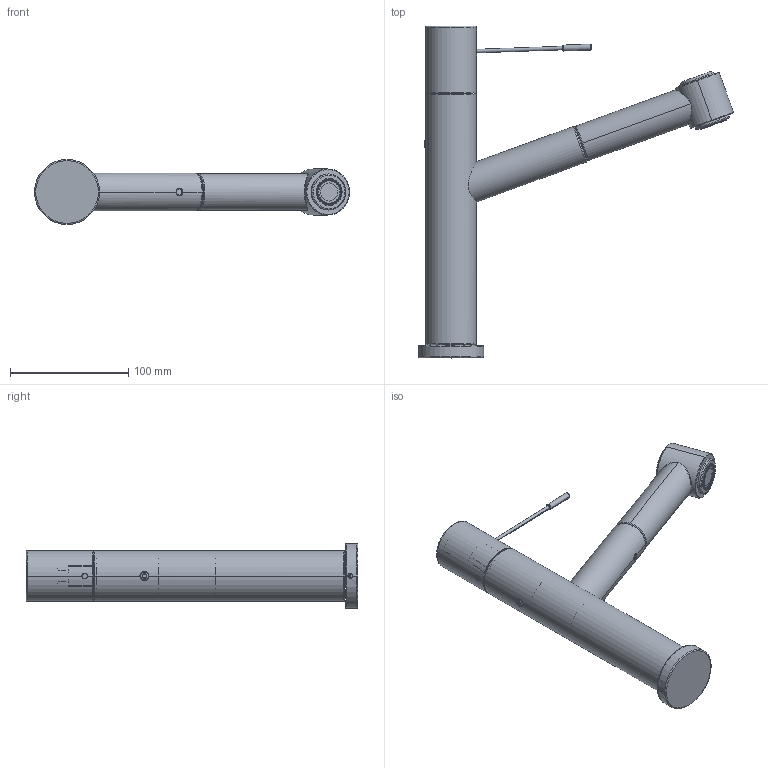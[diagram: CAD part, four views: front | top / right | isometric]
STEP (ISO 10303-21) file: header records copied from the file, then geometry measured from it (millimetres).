
FILE_DESCRIPTION((''),'2;1');
FILE_NAME('10_151_053_XXX','2012-10-04T',('lff'),(''),'PRO/ENGINEER BY PARAMETRIC TECHNOLOGY CORPORATION, 2011080','PRO/ENGINEER BY PARAMETRIC TECHNOLOGY CORPORATION, 2011080','');
FILE_SCHEMA(('AUTOMOTIVE_DESIGN_CC2 { 1 2 10303 214 -1 1 5 2 }'));
Length unit declared in the file: millimetre
Products named in the file (1): 10_151_053_XXX
Bounding box: 266.15 x 280.45 x 55 mm (x, y, z)
Volume: 246158.4 mm3; surface area: 140802.2 mm2
Topology: 3 solids, 4 shells, 798 faces, 2061 edges, 1305 vertices
Faces by surface type: plane 305, cylinder 195, cone 148, torus 131, bspline 17, sphere 2
Entity records: 39445 total; most frequent: CARTESIAN_POINT 11423, ORIENTED_EDGE 4122, DIRECTION 4083, EDGE_CURVE 2061, AXIS2_PLACEMENT_3D 1642, FILL_AREA_STYLE_COLOUR 1385, FILL_AREA_STYLE 1385, SURFACE_STYLE_FILL_AREA 1385
